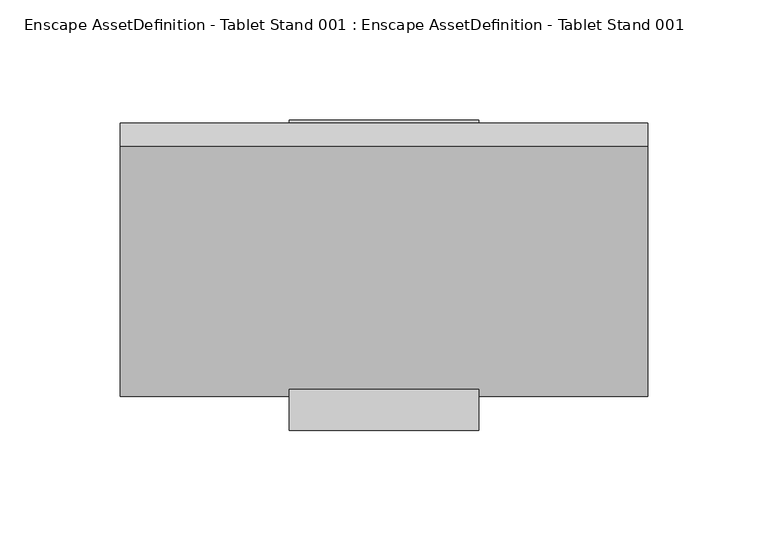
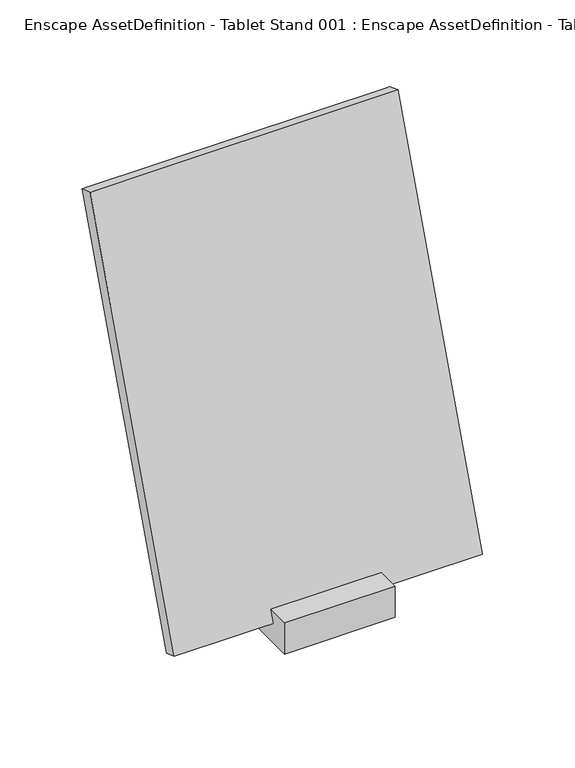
"""IFC4 building model written with IfcOpenShell, lengths in millimetres: geographic element geometry, Enscape AssetDefinition - Tablet Stand 001 : Enscape AssetDefinition - Tablet Stand 001."""

import ifcopenshell
import ifcopenshell.guid

model = None  # the IFC model being written
_history = None  # IfcOwnerHistory: only IFC2X3 demands one
_inside = {}  # id of a spatial element -> (the spatial element, [elements in it])
_under = {}  # id of a project, library or spatial element -> (it, [spatial elements below it])
_declared = {}  # id of a project -> (the project, [libraries it declares])
_typed = {}  # id of a type object -> (the type object, [elements of that type])
_made_of = {}  # id of a material, layer set ... -> (it, [elements and type objects made of it])


def new_model(schema):
    """Start an empty IFC model of exactly this schema.

    Asked for "IFC4X3", IfcOpenShell would pick the latest addendum, in which some entities
    have other attributes; the version numbers below select the first issue.
    IFC2X3 requires an IfcOwnerHistory on every rooted entity: one is made here for all.
    """
    global model, _history
    if schema == "IFC4X3":
        model = ifcopenshell.file(schema_version=(4, 3, 0, 0))
    else:
        model = ifcopenshell.file(schema=schema)
    _inside.clear()
    _under.clear()
    _declared.clear()
    _typed.clear()
    _made_of.clear()
    _history = None
    if model.schema == "IFC2X3":
        org = make("IfcOrganization", Name="unknown")
        user = make(
            "IfcPersonAndOrganization",
            ThePerson=make("IfcPerson", FamilyName="unknown"),
            TheOrganization=org,
        )
        app = make(
            "IfcApplication",
            ApplicationDeveloper=org,
            Version="unknown",
            ApplicationFullName="unknown",
            ApplicationIdentifier="unknown",
        )
        _history = make(
            "IfcOwnerHistory",
            OwningUser=user,
            OwningApplication=app,
            ChangeAction="ADDED",
            CreationDate=0,
        )
    return model


def make(cls, **values):
    """One entity of the class cls with the attributes given. An attribute that is None is left unset."""
    return model.create_entity(
        cls, **{name: value for name, value in values.items() if value is not None}
    )


def rooted(cls, **values):
    """An entity with a GlobalId (a new one), such as an element, a storey or a relation."""
    return make(cls, GlobalId=ifcopenshell.guid.new(), OwnerHistory=_history, **values)


def si_unit(unit_type, name, prefix=None):
    """IfcSIUnit, for example si_unit("LENGTHUNIT", "METRE", prefix="MILLI")."""
    return make("IfcSIUnit", UnitType=unit_type, Prefix=prefix, Name=name)


def assignment(units):
    """IfcUnitAssignment: the units of a project."""
    return None if units is None else make("IfcUnitAssignment", Units=units)


def point(xyz):
    """IfcCartesianPoint."""
    return None if xyz is None else make("IfcCartesianPoint", Coordinates=xyz)


def direction(xyz):
    """IfcDirection."""
    return None if xyz is None else make("IfcDirection", DirectionRatios=xyz)


def frame(location, z_axis=None, x_axis=None):
    """IfcAxis2Placement3D, a coordinate frame: its origin and axes. An axis left out is left unset."""
    return make(
        "IfcAxis2Placement3D",
        Location=point(location),
        Axis=direction(z_axis),
        RefDirection=direction(x_axis),
    )


def origin():
    """The frame at (0, 0, 0) with its axes left unset."""
    return frame((0.0, 0.0, 0.0))


def place(relative_to, where):
    """IfcLocalPlacement: puts the frame where relative to a parent placement (None: the world)."""
    return make(
        "IfcLocalPlacement", PlacementRelTo=relative_to, RelativePlacement=where
    )


def context(
    kind, dimensions, precision=None, world=None, true_north=None, identifier=None
):
    """IfcGeometricRepresentationContext, for example the 3D "Model" context."""
    return make(
        "IfcGeometricRepresentationContext",
        ContextIdentifier=identifier,
        ContextType=kind,
        CoordinateSpaceDimension=dimensions,
        Precision=precision,
        WorldCoordinateSystem=world,
        TrueNorth=true_north,
    )


def project(units=None, contexts=None):
    """IfcProject with its units and contexts."""
    return rooted(
        "IfcProject",
        Name="project",
        RepresentationContexts=contexts,
        UnitsInContext=assignment(units),
    )


def spatial(cls, under=None, at=None, **own):
    """A site, building, storey or space (cls), placed at a placement, below another one or the project."""
    s = rooted(cls, ObjectPlacement=at, **own)
    if under is not None:
        _under.setdefault(under.id(), (under, []))[1].append(s)
    return s


def point_list(points):
    """IfcCartesianPointList2D or 3D."""
    cls = (
        "IfcCartesianPointList2D" if len(points[0]) == 2 else "IfcCartesianPointList3D"
    )
    return make(cls, CoordList=points)


def triangles(points, corners, closed=None, point_numbers=None):
    """IfcTriangulatedFaceSet: each triangle names its three corners, points numbered from 1."""
    return make(
        "IfcTriangulatedFaceSet",
        Coordinates=point_list(points),
        Closed=closed,
        CoordIndex=corners,
        PnIndex=point_numbers,
    )


def shape(context_of_items, identifier, shape_type, items):
    """IfcShapeRepresentation: the items that make up one representation, for example the "Body"."""
    return make(
        "IfcShapeRepresentation",
        ContextOfItems=context_of_items,
        RepresentationIdentifier=identifier,
        RepresentationType=shape_type,
        Items=items,
    )


def source(mapping_origin, context_of_items, identifier, shape_type, items):
    """IfcRepresentationMap: a shape defined once, which mapped items show again and again."""
    return make(
        "IfcRepresentationMap",
        MappingOrigin=mapping_origin,
        MappedRepresentation=shape(context_of_items, identifier, shape_type, items),
    )


def transform(
    local_origin,
    x_axis=None,
    y_axis=None,
    z_axis=None,
    scale=None,
    scale2=None,
    scale3=None,
    uniform=True,
):
    """IfcCartesianTransformationOperator3D, or its non-uniform kind. x_axis, y_axis, z_axis: its Axis1, 2, 3."""
    if uniform:
        return make(
            "IfcCartesianTransformationOperator3D",
            Axis1=direction(x_axis),
            Axis2=direction(y_axis),
            LocalOrigin=point(local_origin),
            Scale=scale,
            Axis3=direction(z_axis),
        )
    return make(
        "IfcCartesianTransformationOperator3DnonUniform",
        Axis1=direction(x_axis),
        Axis2=direction(y_axis),
        LocalOrigin=point(local_origin),
        Scale=scale,
        Axis3=direction(z_axis),
        Scale2=scale2,
        Scale3=scale3,
    )


def mapped(mapping_source, mapping_target):
    """IfcMappedItem: shows the shape of a source again, moved by a transform."""
    return make(
        "IfcMappedItem", MappingSource=mapping_source, MappingTarget=mapping_target
    )


def made_of(thing, what):
    """Note that an element or type object is made of a material, layer set ...; save() writes the relation."""
    if what is not None:
        _made_of.setdefault(what.id(), (what, []))[1].append(thing)
    return thing


def element(
    cls,
    number,
    at=None,
    inside=None,
    cuts=None,
    type_object=None,
    material=None,
    context=None,
    identifier="Body",
    shape_type=None,
    held_by="IfcProductDefinitionShape",
    body=None,
    shapes=None,
    **own,
):
    """One element of the class cls, such as IfcWall. Its Tag is "e" and its number.

    at: its placement. inside: the storey or other place that contains it. cuts: it is an
    opening in that element (IfcRelVoidsElement). A single representation is given by context,
    identifier, shape_type and body (its items); several are given by shapes. held_by: the class
    of the entity that holds the representations. save() writes the other relations.
    """
    e = rooted(cls, Tag="e%d" % number, ObjectPlacement=at, **own)
    if body is not None:
        shapes = [shape(context, identifier, shape_type, body)]
    if shapes is not None:
        e.Representation = make(held_by, Representations=shapes)
    if inside is not None:
        _inside.setdefault(inside.id(), (inside, []))[1].append(e)
    if cuts is not None:
        rooted(
            "IfcRelVoidsElement", RelatingBuildingElement=cuts, RelatedOpeningElement=e
        )
    if type_object is not None:
        _typed.setdefault(type_object.id(), (type_object, []))[1].append(e)
    return made_of(e, material)


def aggregate(whole, parts):
    """IfcRelAggregates: a whole, such as a stair, and the parts it consists of."""
    return rooted("IfcRelAggregates", RelatingObject=whole, RelatedObjects=parts)


def save(model, path):
    """Write the relations noted so far, then the file.

    IfcRelAggregates (storeys below a building ...), IfcRelContainedInSpatialStructure (elements
    in a storey), IfcRelDefinesByType, IfcRelAssociatesMaterial and IfcRelDeclares: one each for
    every whole, place, type object, material and project.
    """
    for whole, parts in _under.values():
        aggregate(whole, parts)
    for where, things in _inside.values():
        rooted(
            "IfcRelContainedInSpatialStructure",
            RelatedElements=things,
            RelatingStructure=where,
        )
    for kind, things in _typed.values():
        rooted("IfcRelDefinesByType", RelatedObjects=things, RelatingType=kind)
    for what, things in _made_of.values():
        rooted("IfcRelAssociatesMaterial", RelatedObjects=things, RelatingMaterial=what)
    for by, libraries in _declared.values():
        rooted("IfcRelDeclares", RelatingContext=by, RelatedDefinitions=libraries)
    model.write(path)


def enscape_assetdefinition_tablet_stand_001_enscape_1d8d2ac8(model_context):
    return source(origin(), model_context, "Body", "Tessellation", [
        triangles([(39.3526397, -64.4841272, 0.0), (-39.3526397, 64.4841272, 0.0), (39.3526397, 64.4841272, 23.5921283), (39.3526397, 64.4841272, 0.0), (39.3526397, -64.4841272, 23.5921283), (-39.3526397, -64.4841272, 0.0), (-39.3526397, -64.4841272, 23.5921283), (-39.3526397, 64.4841272, 23.5921283), (109.5834183, 63.2898732, 296.8998463), (-109.5834183, 53.600898, 300.4263389), (-109.5834183, -40.7574504, 11.0321561), (-109.5834183, 63.2898732, 296.8998463), (-109.5834183, -50.4464348, 14.5586453), (109.5834183, -50.4464348, 14.5586453), (109.5834183, 53.600898, 300.4263389), (109.5834183, -40.7574504, 11.0321561)], [[14, 15, 10], [14, 10, 13], [11, 14, 13], [11, 16, 14], [9, 10, 15], [9, 14, 16], [9, 15, 14], [12, 13, 10], [12, 16, 11], [12, 11, 13], [9, 12, 10], [12, 9, 16], [5, 8, 7], [5, 3, 8], [8, 6, 7], [7, 1, 5], [7, 6, 1], [5, 4, 3], [5, 1, 4], [3, 2, 8], [2, 1, 6], [8, 2, 6], [3, 4, 2], [2, 4, 1]]),
    ])


if __name__ == "__main__":
    model = new_model("IFC4")
    model_context = context("Model", 3, world=origin())
    ifc_project = project(units=[si_unit("LENGTHUNIT", "METRE", prefix="MILLI")], contexts=[model_context])
    site = spatial("IfcSite", under=ifc_project)
    building = spatial("IfcBuilding", under=site)
    placement = place(None, origin())
    enscape_assetdefinition_tablet_stand_001_enscape_shape = enscape_assetdefinition_tablet_stand_001_enscape_1d8d2ac8(model_context)
    element("IfcGeographicElement", 1, ObjectType="Enscape AssetDefinition - Tablet Stand 001 : Enscape AssetDefinition - Tablet Stand 001", at=placement, inside=building, context=model_context, shape_type="MappedRepresentation", body=[
        mapped(enscape_assetdefinition_tablet_stand_001_enscape_shape, transform((0.0, 0.0, 0.0), x_axis=(1.0, 0.0, 0.0), y_axis=(0.0, 1.0, 0.0), z_axis=(0.0, 0.0, 1.0))),
    ])
    save(model, "model.ifc")
